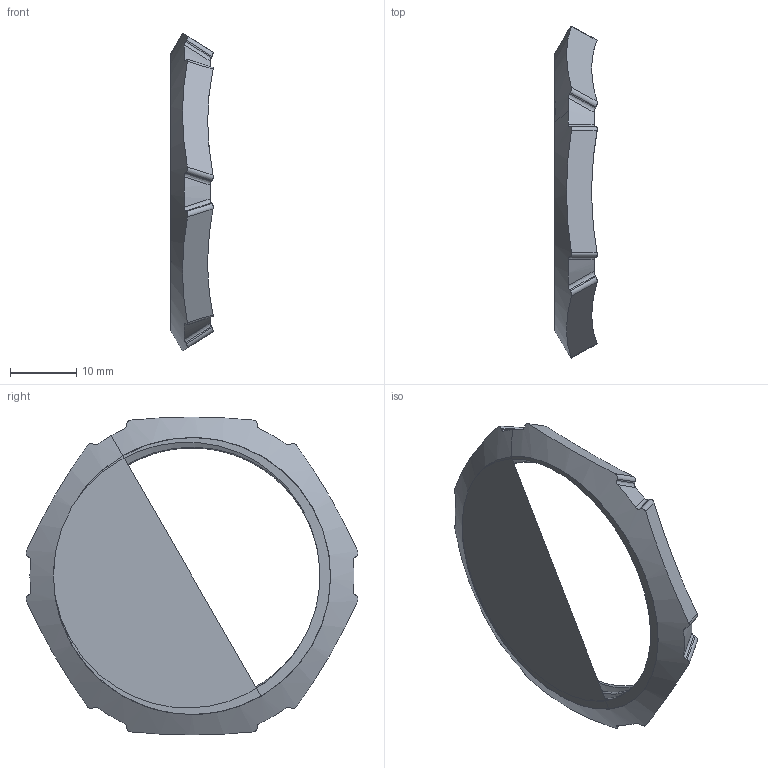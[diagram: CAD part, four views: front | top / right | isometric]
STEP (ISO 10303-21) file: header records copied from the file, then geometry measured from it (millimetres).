
FILE_DESCRIPTION(('Creo Elements/Direct Modeling STEP Export'),'2;1');
FILE_NAME('H05-0032-CL901_OA-W3630_LN-CTG36M.stp','2015-04-14T13:31:44',(''),(''),'PTC Creo Elements/Direct Modeling STEP processor for AP214 (Solid Model)','PTC Creo Elements/Direct Modeling 19.0A 04-Oct-2014 (C) Parametric Technology GmbH','');
FILE_SCHEMA(('AUTOMOTIVE_DESIGN { 1 0 10303 214 1 1 1 1 }'));
Length unit declared in the file: millimetre
Products named in the file (2): LN-CTG36M
Assembly tree (1 placements, depth 2):
  LN-CTG36M
    LN-CTG36M
Bounding box: 6.42 x 50.18 x 48.06 mm (x, y, z)
Surface area: 3504.1 mm2 (no closed solid volume)
Topology: 0 solids, 1 shells, 78 faces, 247 edges, 163 vertices
Faces by surface type: plane 31, cylinder 21, bspline 16, cone 10
Entity records: 12178 total; most frequent: CARTESIAN_POINT 10271, ORIENTED_EDGE 499, EDGE_CURVE 246, DIRECTION 192, VERTEX_POINT 163, B_SPLINE_CURVE_WITH_KNOTS 155, SURFACE_CURVE 131, EDGE_LOOP 78
